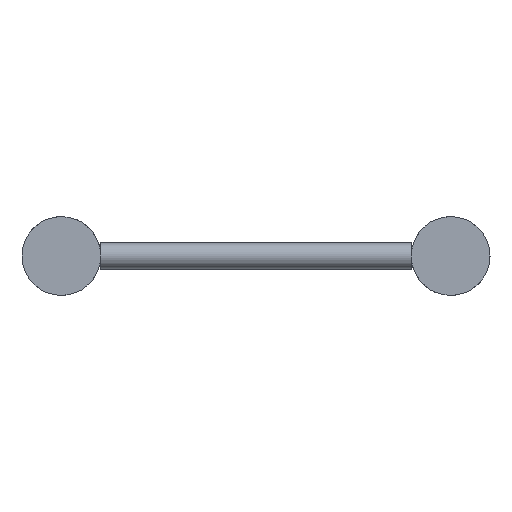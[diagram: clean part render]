
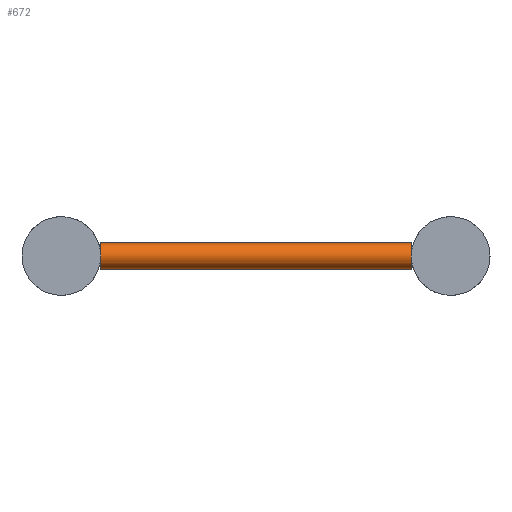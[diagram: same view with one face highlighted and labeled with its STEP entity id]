
A CAD part, left-side view. The second image highlights one B-rep face of the part: STEP entity #672.
In plain terms, the highlighted cylindrical face has radius 8 mm (diameter 16 mm), a full revolution.
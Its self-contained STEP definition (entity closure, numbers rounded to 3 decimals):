
#53=CIRCLE('',#746,8.);
#54=CIRCLE('',#748,8.);
#55=CIRCLE('',#750,8.);
#56=CIRCLE('',#752,8.);
#91=FACE_BOUND('',#234,.T.);
#134=CYLINDRICAL_SURFACE('',#751,8.);
#170=FACE_OUTER_BOUND('',#233,.T.);
#233=EDGE_LOOP('',(#468,#469));
#234=EDGE_LOOP('',(#470,#471));
#324=VERTEX_POINT('',#1060);
#325=VERTEX_POINT('',#1061);
#326=VERTEX_POINT('',#1065);
#327=VERTEX_POINT('',#1066);
#385=EDGE_CURVE('',#325,#324,#53,.T.);
#387=EDGE_CURVE('',#327,#326,#54,.T.);
#388=EDGE_CURVE('',#324,#325,#55,.T.);
#389=EDGE_CURVE('',#326,#327,#56,.T.);
#468=ORIENTED_EDGE('',*,*,#385,.T.);
#469=ORIENTED_EDGE('',*,*,#388,.T.);
#470=ORIENTED_EDGE('',*,*,#387,.T.);
#471=ORIENTED_EDGE('',*,*,#389,.T.);
#672=ADVANCED_FACE('',(#170,#91),#134,.T.);
#746=AXIS2_PLACEMENT_3D('',#1063,#881,#882);
#748=AXIS2_PLACEMENT_3D('',#1068,#886,#887);
#750=AXIS2_PLACEMENT_3D('',#1070,#890,#891);
#751=AXIS2_PLACEMENT_3D('',#1071,#892,#893);
#752=AXIS2_PLACEMENT_3D('',#1072,#894,#895);
#881=DIRECTION('center_axis',(0.,1.,0.));
#882=DIRECTION('ref_axis',(-1.,0.,0.));
#886=DIRECTION('center_axis',(0.,-1.,0.));
#887=DIRECTION('ref_axis',(-1.,0.,0.));
#890=DIRECTION('center_axis',(0.,1.,0.));
#891=DIRECTION('ref_axis',(-1.,0.,0.));
#892=DIRECTION('center_axis',(0.,1.,0.));
#893=DIRECTION('ref_axis',(-1.,0.,0.));
#894=DIRECTION('center_axis',(0.,-1.,0.));
#895=DIRECTION('ref_axis',(-1.,0.,0.));
#1060=CARTESIAN_POINT('',(52.,24.15,0.));
#1061=CARTESIAN_POINT('',(68.,24.15,0.));
#1063=CARTESIAN_POINT('Origin',(60.,24.15,0.));
#1065=CARTESIAN_POINT('',(52.,214.85,0.));
#1066=CARTESIAN_POINT('',(68.,214.85,0.));
#1068=CARTESIAN_POINT('Origin',(60.,214.85,0.));
#1070=CARTESIAN_POINT('Origin',(60.,24.15,0.));
#1071=CARTESIAN_POINT('Origin',(60.,119.5,0.));
#1072=CARTESIAN_POINT('Origin',(60.,214.85,0.));
